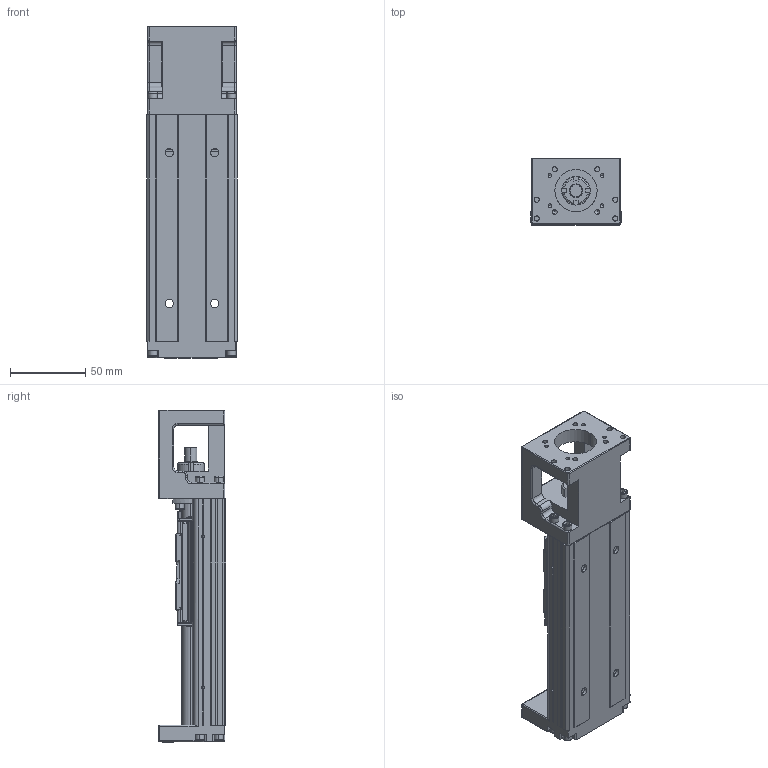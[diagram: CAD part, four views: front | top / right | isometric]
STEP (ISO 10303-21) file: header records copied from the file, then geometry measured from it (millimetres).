
FILE_DESCRIPTION (( 'STEP AP214' ), '1' );
FILE_NAME ('7.0112 KT6005C-150A1-F0.STEP', '2026-03-17T10:37:37', ( '' ), ( '' ), 'SwSTEP 2.0', 'SolidWorks 2025', '' );
FILE_SCHEMA (( 'AUTOMOTIVE_DESIGN' ));
Length unit declared in the file: millimetre
Products named in the file (3): KT60-A1; 7.0112 KT6005C-150A1-F0; KT60-K0_150
Assembly tree (2 placements, depth 2):
  7.0112 KT6005C-150A1-F0
    KT60-K0_150
    KT60-A1
Bounding box: 60 x 44.5 x 220.2 mm (x, y, z)
Volume: 276933.3 mm3; surface area: 94752 mm2
Topology: 21 solids, 21 shells, 1304 faces, 3455 edges, 2219 vertices
Faces by surface type: plane 667, cylinder 450, cone 92, torus 63, bspline 17, sphere 15
Entity records: 57322 total; most frequent: CARTESIAN_POINT 11549, DIRECTION 6881, ORIENTED_EDGE 6816, EDGE_CURVE 3408, AXIS2_PLACEMENT_3D 2390, VERTEX_POINT 2219, VECTOR 2101, LINE 2101
